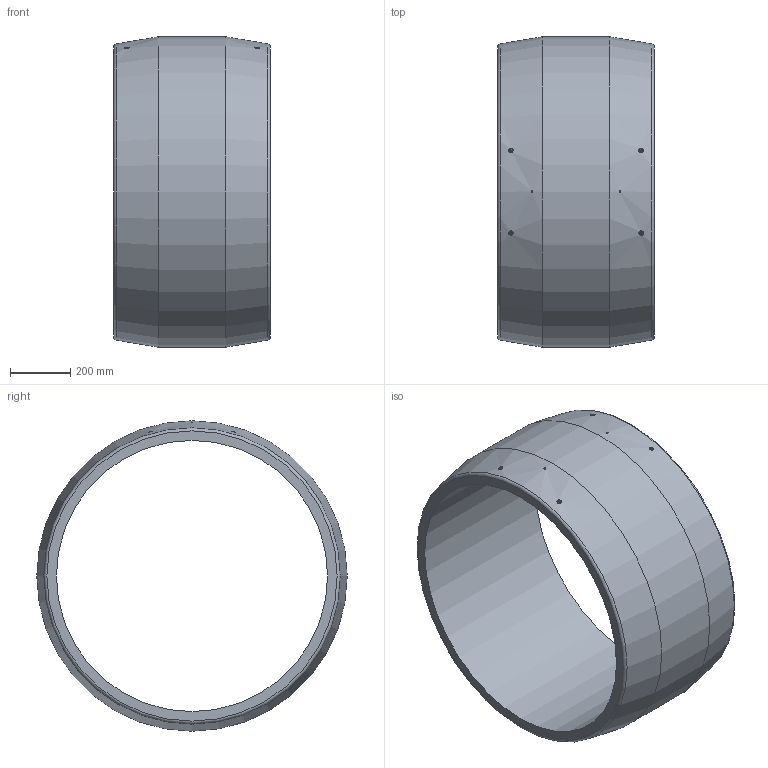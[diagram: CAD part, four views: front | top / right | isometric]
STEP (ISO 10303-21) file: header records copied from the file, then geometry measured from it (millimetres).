
FILE_DESCRIPTION(/* description */ ('Unknown'),/* implementation_level */ '2;1');
FILE_NAME(/* name */ 'MP900B',/* time_stamp */ '2021-12-09T15:58:32+01:00',/* author */ ('Unknown'),/* organization */ ('Unknown'),/* preprocessor_version */ 'ST-DEVELOPER v16.7',/* originating_system */ 'Solid Edge',/* authorisation */ 'Unknown');
FILE_SCHEMA (('AUTOMOTIVE_DESIGN {1 0 10303 214 3 1 1}'));
Length unit declared in the file: millimetre
Products named in the file (1): MP900B
Bounding box: 520 x 1030 x 1030 mm (x, y, z)
Volume: 90634877.4 mm3; surface area: 3364506.9 mm2
Topology: 1 solids, 1 shells, 32 faces, 63 edges, 41 vertices
Faces by surface type: cylinder 12, plane 12, bspline 4, cone 2, torus 2
Full cylindrical faces by diameter (mm): 4 x4, 6 x2, 13 x4, 900 x1, 1030 x1
Entity records: 1168 total; most frequent: CARTESIAN_POINT 629, DIRECTION 102, ORIENTED_EDGE 64, EDGE_LOOP 64, FACE_BOUND 64, AXIS2_PLACEMENT_3D 51, EDGE_CURVE 32, VERTEX_POINT 32
